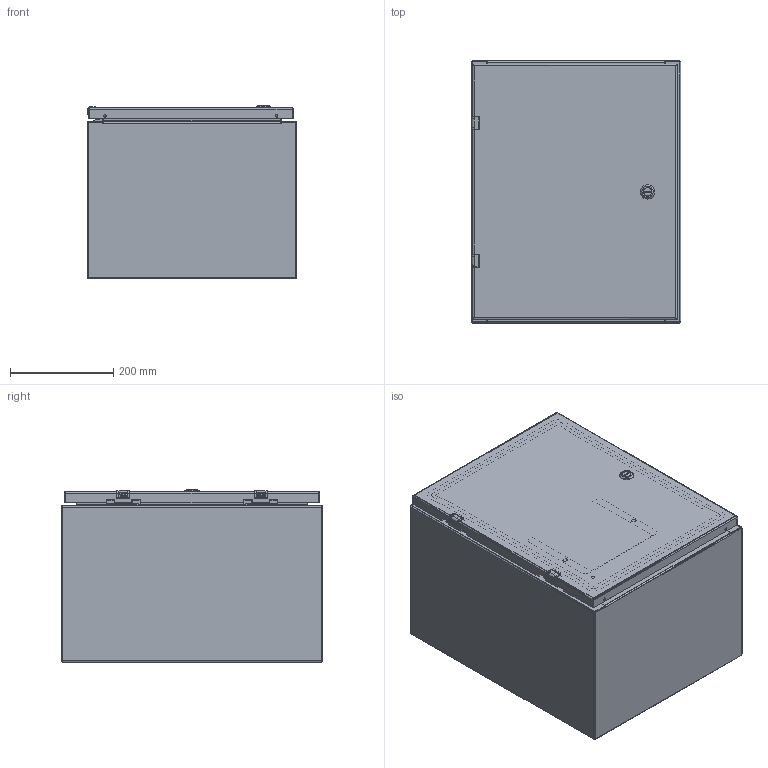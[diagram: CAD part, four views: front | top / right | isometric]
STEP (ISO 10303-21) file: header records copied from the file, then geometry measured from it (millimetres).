
FILE_DESCRIPTION((''),'2;1');
FILE_NAME('MODEL-305_ASM','2022-12-12T09:26:43',('chads'),('SAGINAW CONTROL & ENGINEERING'),'CREO PARAMETRIC BY PTC INC, 2021284','CREO PARAMETRIC BY PTC INC, 2021284','');
FILE_SCHEMA(('AUTOMOTIVE_DESIGN { 1 0 10303 214 1 1 1 1 }'));
Length unit declared in the file: inch
Products named in the file (28): MODEL-305-BDY; MODEL-305-TP; MODEL-305-BTM; MODEL-305-DR; 100837; 100882; 111541; 100794_SHAFT; 100794_INSERT; 100794_CAM; 100794_NUT; 100794_SCREW; 100794_ASM; MODEL-305-DOOR-GASKET; 126391; 126391_ASM; 126393; 102483; 101226; 101376; 102140; MODEL-305-DOOR-ASSY_ASM; 101651; 122191; SUBPANEL; 100904; SUBPANEL-SUBASSEMBLY_ASM; MODEL-305_ASM
Assembly tree (47 placements, depth 4):
  MODEL-305_ASM
    MODEL-305-BDY
    MODEL-305-TP
    MODEL-305-BTM
    MODEL-305-DOOR-ASSY_ASM
      MODEL-305-DR
      100837  x3
      100882  x2
      111541
      100794_ASM
        100794_SHAFT
        100794_INSERT
        100794_CAM
        100794_NUT
        100794_SCREW
      MODEL-305-DOOR-GASKET
      126391_ASM  x2
        126391
      126393  x2
      102483  x6
      101226  x2
      101376  x2
      102140  x2
    100837
    101651  x4
    122191
    SUBPANEL-SUBASSEMBLY_ASM
      SUBPANEL
      100904  x4
Bounding box: 406.4 x 508 x 335.93 mm (x, y, z)
Volume: 2781426 mm3; surface area: 2624999.6 mm2
Topology: 44 solids, 44 shells, 2537 faces, 6469 edges, 4072 vertices
Faces by surface type: plane 1076, cylinder 692, bspline 432, torus 197, cone 88, sphere 52
Entity records: 82502 total; most frequent: CARTESIAN_POINT 24386, ORIENTED_EDGE 8386, DIRECTION 7834, PRESENTATION_STYLE_ASSIGNMENT 4390, EDGE_CURVE 4193, STYLED_ITEM 4115, CURVE_STYLE 4031, AXIS2_PLACEMENT_3D 2854
